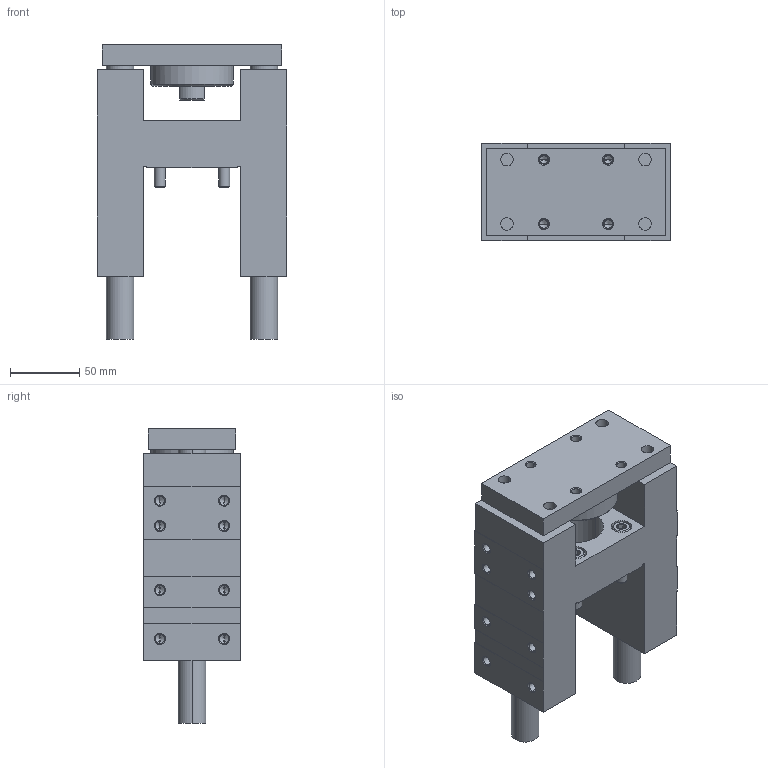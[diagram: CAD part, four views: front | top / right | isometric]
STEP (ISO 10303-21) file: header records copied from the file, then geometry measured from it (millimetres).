
FILE_DESCRIPTION (( 'STEP AP203' ), '1' );
FILE_NAME ('GB50-25.STEP', '2020-04-24T11:25:04', ( '' ), ( '' ), 'SwSTEP 2.0', 'SolidWorks 2019', '' );
FILE_SCHEMA (( 'CONFIG_CONTROL_DESIGN' ));
Length unit declared in the file: millimetre
Products named in the file (1): GB50-25
Bounding box: 137 x 70 x 213 mm (x, y, z)
Volume: 992667.3 mm3; surface area: 171626.1 mm2
Topology: 6 solids, 6 shells, 377 faces, 852 edges, 480 vertices
Faces by surface type: cone 154, plane 117, cylinder 106
Entity records: 10863 total; most frequent: CARTESIAN_POINT 2350, DIRECTION 1902, ORIENTED_EDGE 1624, EDGE_CURVE 812, AXIS2_PLACEMENT_3D 744, VERTEX_POINT 480, EDGE_LOOP 440, VECTOR 414
